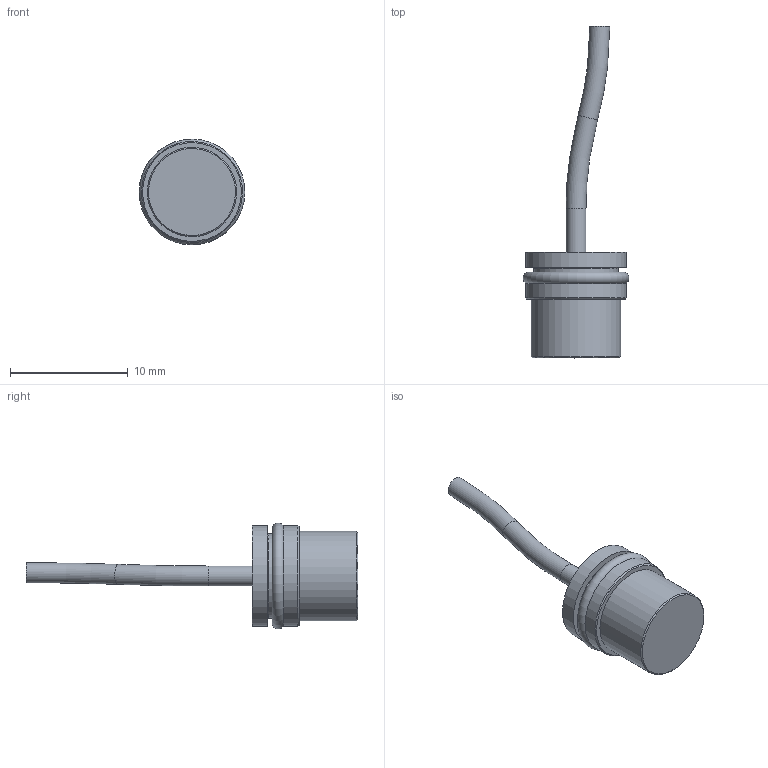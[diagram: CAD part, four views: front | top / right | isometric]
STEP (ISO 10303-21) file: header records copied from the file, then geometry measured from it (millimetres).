
FILE_DESCRIPTION( ( 'Unknown' ), '1' );
FILE_NAME( 'N:/Engineering/CAD/Wirbelstrom/Wirbelstromsensoren/CM2/CM2.stp', 'Unknown', ( 'Unknown' ), ( 'Unknown' ), 'PSStep 17.0.49', 'Unknown', ' ' );
FILE_SCHEMA( ( 'AUTOMOTIVE_DESIGN { 1 0 10303 214 1 1 1 1 }' ) );
Length unit declared in the file: millimetre
Products named in the file (4): 1; 2; 3; 4
Bounding box: 9 x 28.23 x 9 mm (x, y, z)
Surface area: 549.6 mm2 (no closed solid volume)
Topology: 0 solids, 21 shells, 21 faces, 55 edges, 42 vertices
Faces by surface type: plane 8, cylinder 6, torus 5, cone 2
Full cylindrical faces by diameter (mm): 0.1 x1, 1.7 x1, 7.2 x1, 7.6 x1, 8.6 x2
Entity records: 804 total; most frequent: DIRECTION 130, CARTESIAN_POINT 106, AXIS2_PLACEMENT_3D 65, FACE_BOUND 41, VERTEX_POINT 41, EDGE_LOOP 40, ORIENTED_EDGE 40, EDGE_CURVE 40
